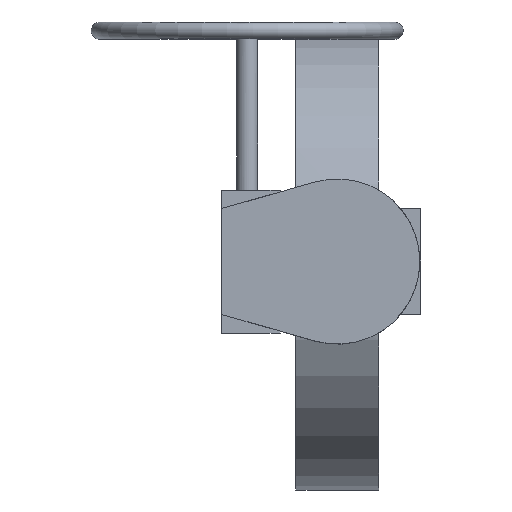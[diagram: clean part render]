
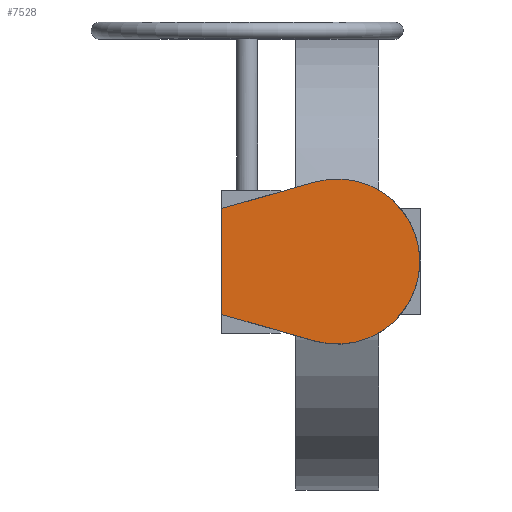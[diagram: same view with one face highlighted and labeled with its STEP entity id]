
A CAD part, top view. The second image highlights one B-rep face of the part: STEP entity #7528.
In plain terms, the highlighted planar face has unit normal (0, 0, 1).
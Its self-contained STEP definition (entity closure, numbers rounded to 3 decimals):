
#7528=ADVANCED_FACE('',(#13650),#13652,.T.);
#13650=FACE_BOUND('',#13651,.T.);
#13651=EDGE_LOOP('',(#18632,#18633,#18634,#18635));
#13652=PLANE('',#13653);
#13653=AXIS2_PLACEMENT_3D('',#13654,#13655,#13656);
#13654=CARTESIAN_POINT('',(0.,0.,440.));
#13655=DIRECTION('',(0.,0.,1.));
#13656=DIRECTION('',(0.,1.,0.));
#18632=ORIENTED_EDGE('',*,*,#21181,.T.);
#18633=ORIENTED_EDGE('',*,*,#21177,.T.);
#18634=ORIENTED_EDGE('',*,*,#21170,.T.);
#18635=ORIENTED_EDGE('',*,*,#21165,.T.);
#21165=EDGE_CURVE('',#25244,#25242,#25245,.T.);
#21170=EDGE_CURVE('',#25252,#25244,#25253,.T.);
#21177=EDGE_CURVE('',#25265,#25252,#25266,.T.);
#21181=EDGE_CURVE('',#25242,#25265,#25271,.T.);
#25242=VERTEX_POINT('',#36122);
#25244=VERTEX_POINT('',#36126);
#25245=LINE('',#36127,#36128);
#25252=VERTEX_POINT('',#36144);
#25253=LINE('',#36145,#36146);
#25265=VERTEX_POINT('',#36171);
#25266=LINE('',#36172,#36173);
#25271=CIRCLE('',#36185,78.);
#36122=CARTESIAN_POINT('',(-21.411,-75.004,440.));
#36126=CARTESIAN_POINT('',(-109.,-50.,440.));
#36127=CARTESIAN_POINT('',(-109.,-50.,440.));
#36128=VECTOR('',#36129,1.);
#36129=DIRECTION('',(0.962,-0.275,0.));
#36144=CARTESIAN_POINT('',(-109.,50.,440.));
#36145=CARTESIAN_POINT('',(-109.,50.,440.));
#36146=VECTOR('',#36147,1.);
#36147=DIRECTION('',(0.,-1.,0.));
#36171=CARTESIAN_POINT('',(-21.411,75.004,440.));
#36172=CARTESIAN_POINT('',(-21.411,75.004,440.));
#36173=VECTOR('',#36174,1.);
#36174=DIRECTION('',(-0.962,-0.275,0.));
#36185=AXIS2_PLACEMENT_3D('',#36186,#36187,#36188);
#36186=CARTESIAN_POINT('',(0.,0.,440.));
#36187=DIRECTION('',(0.,0.,1.));
#36188=DIRECTION('',(-0.275,-0.962,0.));
